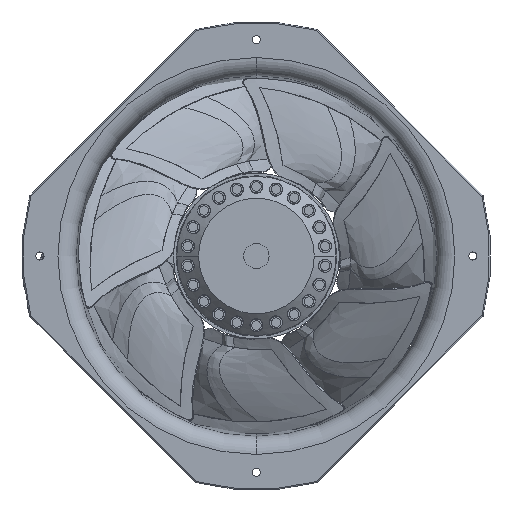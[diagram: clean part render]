
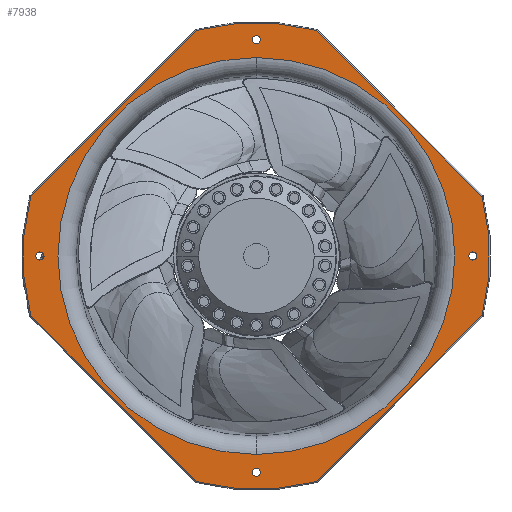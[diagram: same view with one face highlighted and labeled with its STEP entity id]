
A CAD part, front view. The second image highlights one B-rep face of the part: STEP entity #7938.
In plain terms, the highlighted planar face has unit normal (0, -1, 0).
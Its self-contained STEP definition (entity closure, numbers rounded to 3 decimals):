
#238=CARTESIAN_POINT('',(0.,-70.,0.));
#239=DIRECTION('',(0.,1.,0.));
#240=DIRECTION('',(0.,0.,-1.));
#241=AXIS2_PLACEMENT_3D('',#238,#239,#240);
#243=CARTESIAN_POINT('',(0.,-70.,0.));
#244=DIRECTION('',(0.,-1.,0.));
#245=DIRECTION('',(0.,0.,-1.));
#246=AXIS2_PLACEMENT_3D('',#243,#244,#245);
#248=CARTESIAN_POINT('',(0.,-70.,-120.));
#249=DIRECTION('',(0.,1.,0.));
#250=DIRECTION('',(1.,0.,0.));
#251=AXIS2_PLACEMENT_3D('',#248,#249,#250);
#253=CARTESIAN_POINT('',(0.,-70.,-120.));
#254=DIRECTION('',(0.,1.,0.));
#255=DIRECTION('',(-1.,0.,0.));
#256=AXIS2_PLACEMENT_3D('',#253,#254,#255);
#258=CARTESIAN_POINT('',(120.,-70.,0.));
#259=DIRECTION('',(0.,1.,0.));
#260=DIRECTION('',(1.,0.,0.));
#261=AXIS2_PLACEMENT_3D('',#258,#259,#260);
#263=CARTESIAN_POINT('',(120.,-70.,0.));
#264=DIRECTION('',(0.,1.,0.));
#265=DIRECTION('',(-1.,0.,0.));
#266=AXIS2_PLACEMENT_3D('',#263,#264,#265);
#268=CARTESIAN_POINT('',(0.,-70.,120.));
#269=DIRECTION('',(0.,1.,0.));
#270=DIRECTION('',(1.,0.,0.));
#271=AXIS2_PLACEMENT_3D('',#268,#269,#270);
#273=CARTESIAN_POINT('',(0.,-70.,120.));
#274=DIRECTION('',(0.,1.,0.));
#275=DIRECTION('',(-1.,0.,0.));
#276=AXIS2_PLACEMENT_3D('',#273,#274,#275);
#278=CARTESIAN_POINT('',(-120.,-70.,0.));
#279=DIRECTION('',(0.,1.,0.));
#280=DIRECTION('',(1.,0.,0.));
#281=AXIS2_PLACEMENT_3D('',#278,#279,#280);
#283=CARTESIAN_POINT('',(-120.,-70.,0.));
#284=DIRECTION('',(0.,1.,0.));
#285=DIRECTION('',(-1.,0.,0.));
#286=AXIS2_PLACEMENT_3D('',#283,#284,#285);
#288=CARTESIAN_POINT('',(0.,-70.,0.));
#289=DIRECTION('',(0.,-1.,0.));
#290=DIRECTION('',(0.967,0.,-0.256));
#291=AXIS2_PLACEMENT_3D('',#288,#289,#290);
#293=DIRECTION('',(0.707,0.,0.707));
#294=VECTOR('',#293,129.965);
#295=CARTESIAN_POINT('',(33.176,-70.,-125.075));
#296=LINE('',#295,#294);
#297=CARTESIAN_POINT('',(0.,-70.,0.));
#298=DIRECTION('',(0.,-1.,0.));
#299=DIRECTION('',(-0.256,0.,-0.967));
#300=AXIS2_PLACEMENT_3D('',#297,#298,#299);
#302=DIRECTION('',(0.707,0.,-0.707));
#303=VECTOR('',#302,129.965);
#304=CARTESIAN_POINT('',(-125.075,-70.,-33.176));
#305=LINE('',#304,#303);
#306=CARTESIAN_POINT('',(0.,-70.,0.));
#307=DIRECTION('',(0.,-1.,0.));
#308=DIRECTION('',(-0.967,0.,0.256));
#309=AXIS2_PLACEMENT_3D('',#306,#307,#308);
#311=DIRECTION('',(-0.707,0.,-0.707));
#312=VECTOR('',#311,129.965);
#313=CARTESIAN_POINT('',(-33.176,-70.,125.075));
#314=LINE('',#313,#312);
#315=CARTESIAN_POINT('',(0.,-70.,0.));
#316=DIRECTION('',(0.,-1.,0.));
#317=DIRECTION('',(0.256,0.,0.967));
#318=AXIS2_PLACEMENT_3D('',#315,#316,#317);
#320=DIRECTION('',(-0.707,0.,0.707));
#321=VECTOR('',#320,129.965);
#322=CARTESIAN_POINT('',(125.075,-70.,33.176));
#323=LINE('',#322,#321);
#6760=CARTESIAN_POINT('',(0.,-70.,-110.046));
#6761=VERTEX_POINT('',#6760);
#6774=CARTESIAN_POINT('',(0.,-70.,110.046));
#6775=VERTEX_POINT('',#6774);
#6797=CARTESIAN_POINT('',(2.25,-70.,-120.));
#6798=CARTESIAN_POINT('',(-2.25,-70.,-120.));
#6799=VERTEX_POINT('',#6797);
#6800=VERTEX_POINT('',#6798);
#6801=CARTESIAN_POINT('',(122.25,-70.,0.));
#6802=CARTESIAN_POINT('',(117.75,-70.,0.));
#6803=VERTEX_POINT('',#6801);
#6804=VERTEX_POINT('',#6802);
#6805=CARTESIAN_POINT('',(2.25,-70.,120.));
#6806=CARTESIAN_POINT('',(-2.25,-70.,120.));
#6807=VERTEX_POINT('',#6805);
#6808=VERTEX_POINT('',#6806);
#6809=CARTESIAN_POINT('',(-117.75,-70.,0.));
#6810=CARTESIAN_POINT('',(-122.25,-70.,0.));
#6811=VERTEX_POINT('',#6809);
#6812=VERTEX_POINT('',#6810);
#7743=CARTESIAN_POINT('',(125.075,-70.,
-33.176));
#7744=CARTESIAN_POINT('',(125.075,-70.,33.176));
#7745=VERTEX_POINT('',#7743);
#7746=VERTEX_POINT('',#7744);
#7751=CARTESIAN_POINT('',(33.176,-70.,125.075));
#7752=VERTEX_POINT('',#7751);
#7757=CARTESIAN_POINT('',(-33.176,-70.,
125.075));
#7758=VERTEX_POINT('',#7757);
#7763=CARTESIAN_POINT('',(-125.075,-70.,33.176));
#7764=VERTEX_POINT('',#7763);
#7769=CARTESIAN_POINT('',(-125.075,-70.,
-33.176));
#7770=VERTEX_POINT('',#7769);
#7775=CARTESIAN_POINT('',(-33.176,-70.,-125.075));
#7776=VERTEX_POINT('',#7775);
#7781=CARTESIAN_POINT('',(33.176,-70.,
-125.075));
#7782=VERTEX_POINT('',#7781);
#7886=CARTESIAN_POINT('',(0.,-70.,0.));
#7887=DIRECTION('',(0.,1.,0.));
#7888=DIRECTION('',(0.,0.,-1.));
#7889=AXIS2_PLACEMENT_3D('',#7886,#7887,#7888);
#7890=PLANE('',#7889);
#7892=ORIENTED_EDGE('',*,*,#7891,.F.);
#7894=ORIENTED_EDGE('',*,*,#7893,.F.);
#7896=ORIENTED_EDGE('',*,*,#7895,.F.);
#7898=ORIENTED_EDGE('',*,*,#7897,.F.);
#7900=ORIENTED_EDGE('',*,*,#7899,.F.);
#7902=ORIENTED_EDGE('',*,*,#7901,.F.);
#7904=ORIENTED_EDGE('',*,*,#7903,.F.);
#7906=ORIENTED_EDGE('',*,*,#7905,.F.);
#7907=EDGE_LOOP('',(#7892,#7894,#7896,#7898,#7900,#7902,#7904,#7906));
#7908=FACE_OUTER_BOUND('',#7907,.F.);
#7909=ORIENTED_EDGE('',*,*,#7871,.F.);
#7911=ORIENTED_EDGE('',*,*,#7910,.T.);
#7912=EDGE_LOOP('',(#7909,#7911));
#7913=FACE_BOUND('',#7912,.F.);
#7915=ORIENTED_EDGE('',*,*,#7914,.F.);
#7917=ORIENTED_EDGE('',*,*,#7916,.F.);
#7918=EDGE_LOOP('',(#7915,#7917));
#7919=FACE_BOUND('',#7918,.F.);
#7921=ORIENTED_EDGE('',*,*,#7920,.F.);
#7923=ORIENTED_EDGE('',*,*,#7922,.F.);
#7924=EDGE_LOOP('',(#7921,#7923));
#7925=FACE_BOUND('',#7924,.F.);
#7927=ORIENTED_EDGE('',*,*,#7926,.F.);
#7929=ORIENTED_EDGE('',*,*,#7928,.F.);
#7930=EDGE_LOOP('',(#7927,#7929));
#7931=FACE_BOUND('',#7930,.F.);
#7933=ORIENTED_EDGE('',*,*,#7932,.F.);
#7935=ORIENTED_EDGE('',*,*,#7934,.F.);
#7936=EDGE_LOOP('',(#7933,#7935));
#7937=FACE_BOUND('',#7936,.F.);
#7938=ADVANCED_FACE('',(#7908,#7913,#7919,#7925,#7931,#7937),#7890,.F.);
#242=CIRCLE('',#241,110.046);
#247=CIRCLE('',#246,110.046);
#252=CIRCLE('',#251,2.25);
#257=CIRCLE('',#256,2.25);
#262=CIRCLE('',#261,2.25);
#267=CIRCLE('',#266,2.25);
#272=CIRCLE('',#271,2.25);
#277=CIRCLE('',#276,2.25);
#282=CIRCLE('',#281,2.25);
#287=CIRCLE('',#286,2.25);
#292=CIRCLE('',#291,129.4);
#301=CIRCLE('',#300,129.4);
#310=CIRCLE('',#309,129.4);
#319=CIRCLE('',#318,129.4);
#7871=EDGE_CURVE('',#6761,#6775,#242,.T.);
#7891=EDGE_CURVE('',#7745,#7746,#292,.T.);
#7893=EDGE_CURVE('',#7782,#7745,#296,.T.);
#7895=EDGE_CURVE('',#7776,#7782,#301,.T.);
#7897=EDGE_CURVE('',#7770,#7776,#305,.T.);
#7899=EDGE_CURVE('',#7764,#7770,#310,.T.);
#7901=EDGE_CURVE('',#7758,#7764,#314,.T.);
#7903=EDGE_CURVE('',#7752,#7758,#319,.T.);
#7905=EDGE_CURVE('',#7746,#7752,#323,.T.);
#7910=EDGE_CURVE('',#6761,#6775,#247,.T.);
#7914=EDGE_CURVE('',#6799,#6800,#252,.T.);
#7916=EDGE_CURVE('',#6800,#6799,#257,.T.);
#7920=EDGE_CURVE('',#6803,#6804,#262,.T.);
#7922=EDGE_CURVE('',#6804,#6803,#267,.T.);
#7926=EDGE_CURVE('',#6807,#6808,#272,.T.);
#7928=EDGE_CURVE('',#6808,#6807,#277,.T.);
#7932=EDGE_CURVE('',#6811,#6812,#282,.T.);
#7934=EDGE_CURVE('',#6812,#6811,#287,.T.);
